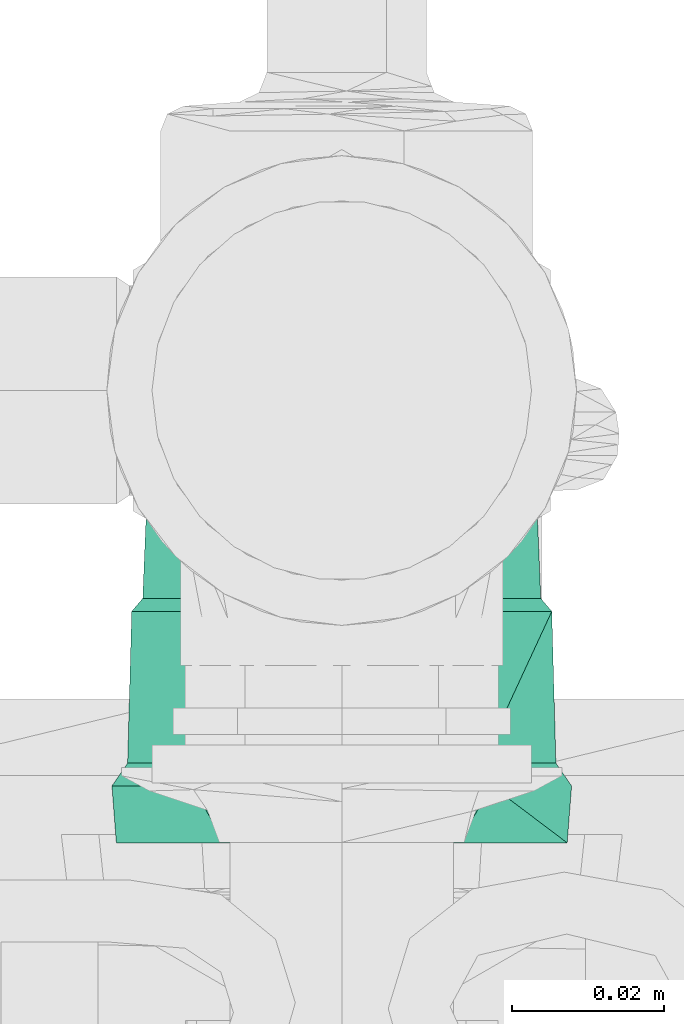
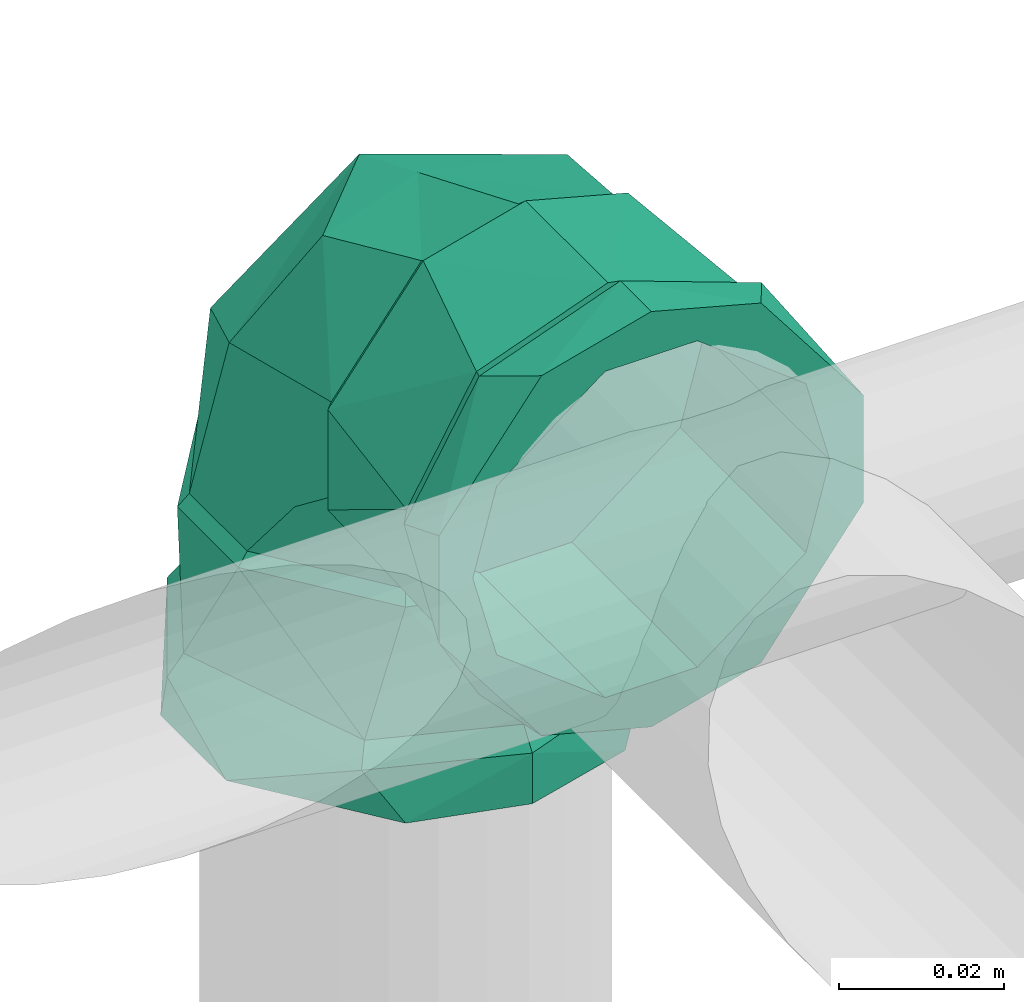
# One storey, part 59 of 589: 1 flow fitting.
"""IFC2X3 building model written with IfcOpenShell, lengths in millimetres."""

from ifc_helpers import new_model, entity, si_unit, converted_unit, derived_unit, direction, frame, origin, place, context, subcontext, project, spatial, faceted_brep, source, transform, mapped, material, type_object, type_shapes, element, save


model = new_model("IFC2X3")

# Units and contexts
model_context = context("Model", 3, precision=0.01, world=origin(), true_north=direction((6.123031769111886e-17, 1.0)))
body_context = subcontext(model_context, "Body", "Model", "MODEL_VIEW")
ifc_project = project(units=[si_unit("LENGTHUNIT", "METRE", prefix="MILLI"), si_unit("AREAUNIT", "SQUARE_METRE"), si_unit("VOLUMEUNIT", "CUBIC_METRE"), converted_unit("PLANEANGLEUNIT", "DEGREE", entity("IfcRatioMeasure", 0.017453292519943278), si_unit("PLANEANGLEUNIT", "RADIAN"), dimensions=[0, 0, 0, 0, 0, 0, 0]), si_unit("MASSUNIT", "GRAM", prefix="KILO"), derived_unit("MASSDENSITYUNIT", [(si_unit("MASSUNIT", "GRAM", prefix="KILO"), 1), (si_unit("LENGTHUNIT", "METRE"), -3)]), derived_unit("IONCONCENTRATIONUNIT", [(si_unit("MASSUNIT", "GRAM", prefix="KILO"), 1), (si_unit("LENGTHUNIT", "METRE"), -3)]), derived_unit("MOMENTOFINERTIAUNIT", [(si_unit("LENGTHUNIT", "METRE"), 4)]), si_unit("TIMEUNIT", "SECOND"), si_unit("FREQUENCYUNIT", "HERTZ"), si_unit("THERMODYNAMICTEMPERATUREUNIT", "DEGREE_CELSIUS"), derived_unit("THERMALTRANSMITTANCEUNIT", [(si_unit("MASSUNIT", "GRAM", prefix="KILO"), 1), (si_unit("THERMODYNAMICTEMPERATUREUNIT", "KELVIN"), -1), (si_unit("TIMEUNIT", "SECOND"), -3)]), derived_unit("THERMALCONDUCTANCEUNIT", [(si_unit("MASSUNIT", "GRAM", prefix="KILO"), 1), (si_unit("THERMODYNAMICTEMPERATUREUNIT", "KELVIN"), -1), (si_unit("TIMEUNIT", "SECOND"), -3), (si_unit("LENGTHUNIT", "METRE"), 1)]), derived_unit("VOLUMETRICFLOWRATEUNIT", [(si_unit("LENGTHUNIT", "METRE"), 3), (si_unit("TIMEUNIT", "SECOND"), -1)]), derived_unit("MASSFLOWRATEUNIT", [(si_unit("MASSUNIT", "GRAM", prefix="KILO"), 1), (si_unit("TIMEUNIT", "SECOND"), -1)]), derived_unit("ROTATIONALFREQUENCYUNIT", [(si_unit("TIMEUNIT", "SECOND"), -1)]), si_unit("ELECTRICCURRENTUNIT", "AMPERE"), si_unit("ELECTRICVOLTAGEUNIT", "VOLT"), si_unit("POWERUNIT", "WATT"), si_unit("FORCEUNIT", "NEWTON", prefix="KILO"), si_unit("ILLUMINANCEUNIT", "LUX"), si_unit("LUMINOUSFLUXUNIT", "LUMEN"), si_unit("LUMINOUSINTENSITYUNIT", "CANDELA"), derived_unit("USERDEFINED", [(si_unit("MASSUNIT", "GRAM", prefix="KILO"), -1), (si_unit("LENGTHUNIT", "METRE"), -2), (si_unit("TIMEUNIT", "SECOND"), 3), (si_unit("LUMINOUSFLUXUNIT", "LUMEN"), 1)]), derived_unit("USERDEFINED", [(si_unit("MASSUNIT", "GRAM", prefix="KILO"), 1), (si_unit("TIMEUNIT", "SECOND"), -3), (si_unit("LENGTHUNIT", "METRE"), 3), (si_unit("ELECTRICCURRENTUNIT", "AMPERE"), -2)]), derived_unit("SOUNDPOWERUNIT", [(si_unit("MASSUNIT", "GRAM", prefix="KILO"), 1), (si_unit("TIMEUNIT", "SECOND"), -3), (si_unit("LENGTHUNIT", "METRE"), 2)]), derived_unit("SOUNDPRESSUREUNIT", [(si_unit("MASSUNIT", "GRAM", prefix="KILO"), 1), (si_unit("LENGTHUNIT", "METRE"), -1), (si_unit("TIMEUNIT", "SECOND"), -2)]), derived_unit("LINEARVELOCITYUNIT", [(si_unit("LENGTHUNIT", "METRE"), 1), (si_unit("TIMEUNIT", "SECOND"), -1)]), si_unit("PRESSUREUNIT", "PASCAL"), derived_unit("USERDEFINED", [(si_unit("MASSUNIT", "GRAM", prefix="KILO"), 1), (si_unit("LENGTHUNIT", "METRE"), -2), (si_unit("TIMEUNIT", "SECOND"), -2)]), derived_unit("LINEARFORCEUNIT", [(si_unit("MASSUNIT", "GRAM", prefix="KILO"), 1), (si_unit("TIMEUNIT", "SECOND"), -2)]), derived_unit("PLANARFORCEUNIT", [(si_unit("MASSUNIT", "GRAM", prefix="KILO"), 1), (si_unit("LENGTHUNIT", "METRE"), -1), (si_unit("TIMEUNIT", "SECOND"), -2)]), derived_unit("SPECIFICHEATCAPACITYUNIT", [(si_unit("THERMODYNAMICTEMPERATUREUNIT", "KELVIN"), -1), (si_unit("LENGTHUNIT", "METRE"), 2), (si_unit("TIMEUNIT", "SECOND"), -2)]), derived_unit("HEATINGVALUEUNIT", [(si_unit("LENGTHUNIT", "METRE"), 2), (si_unit("TIMEUNIT", "SECOND"), -2)]), derived_unit("VAPORPERMEABILITYUNIT", [(si_unit("LENGTHUNIT", "METRE"), -1), (si_unit("TIMEUNIT", "SECOND"), 1)]), derived_unit("DYNAMICVISCOSITYUNIT", [(si_unit("MASSUNIT", "GRAM", prefix="KILO"), 1), (si_unit("TIMEUNIT", "SECOND"), -1), (si_unit("LENGTHUNIT", "METRE"), -1)]), derived_unit("THERMALEXPANSIONCOEFFICIENTUNIT", [(si_unit("THERMODYNAMICTEMPERATUREUNIT", "KELVIN"), -1)]), derived_unit("MODULUSOFELASTICITYUNIT", [(si_unit("MASSUNIT", "GRAM", prefix="KILO"), 1), (si_unit("LENGTHUNIT", "METRE"), -1), (si_unit("TIMEUNIT", "SECOND"), -2)]), derived_unit("ISOTHERMALMOISTURECAPACITYUNIT", [(si_unit("LENGTHUNIT", "METRE"), 3), (si_unit("MASSUNIT", "GRAM", prefix="KILO"), -1)]), derived_unit("MOISTUREDIFFUSIVITYUNIT", [(si_unit("TIMEUNIT", "SECOND"), -1), (si_unit("LENGTHUNIT", "METRE"), 2)])], contexts=[model_context])

# Site, building, storey
site_placement = place(None, origin())
site = spatial("IfcSite", under=ifc_project, at=site_placement, Name="Default", CompositionType="ELEMENT")
building_placement = place(site_placement, origin())
building = spatial("IfcBuilding", under=site, at=building_placement, CompositionType="ELEMENT")
storey_placement = place(building_placement, frame((0.0, 0.0, 100.0)))
storey = spatial("IfcBuildingStorey", under=building, at=storey_placement, Name="TÉRREO", CompositionType="ELEMENT", Elevation=100.0)

# Flow fitting
ifc_material = material(Name="PVC Marrom")
pipe_fitting_type = type_object("IfcPipeFittingType", Name="PVC Marrom Soldável_Joelho 45°_90°_Rodrigo MEP:Joelho", PredefinedType="NOTDEFINED", material=ifc_material)
shared_shape = source(origin(), body_context, "Body", "Brep", [
    faceted_brep([(-28.650000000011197, 29.100000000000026, 0.0), (-24.811627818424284, 29.100000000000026, 14.324999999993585), (-16.11339673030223, 29.100000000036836, 20.999387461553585), (-7.415165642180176, 29.10000000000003, 27.673774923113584), (7.415165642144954, 29.100000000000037, 27.67377492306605), (16.113396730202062, 29.100000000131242, 20.99938746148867), (24.811627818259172, 29.100000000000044, 14.324999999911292), (28.649999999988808, 29.100000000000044, 0.0), (24.811627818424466, 29.100000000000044, -14.32500000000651), (16.113396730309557, 29.09999999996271, -20.99938746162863), (7.41516564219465, 29.100000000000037, -27.673774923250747), (-7.4151656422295, 29.10000000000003, -27.673774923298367), (-16.11339673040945, 29.099999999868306, -20.999387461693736), (-24.811627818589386, 29.100000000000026, -14.325000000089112), (7.026937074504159, 27.400000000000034, 26.2248861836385), (-7.026937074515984, 27.400000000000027, 26.224886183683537), (-15.269763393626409, 27.400000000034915, 19.899943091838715), (-23.512589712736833, 27.400000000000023, 13.574999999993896), (-27.150000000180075, 27.400000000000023, 0.0), (-23.512589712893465, 27.400000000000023, -13.575000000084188), (-15.269763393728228, 27.39999999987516, -19.899943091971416), (-7.02693707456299, 27.400000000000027, -26.224886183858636), (7.026937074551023, 27.400000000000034, -26.224886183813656), (15.269763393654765, 27.399999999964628, -19.899943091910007), (23.51258971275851, 27.40000000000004, -13.575000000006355), (27.149999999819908, 27.40000000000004, 0.0), (23.512589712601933, 27.40000000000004, 13.574999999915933), (15.269763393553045, 27.400000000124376, 19.899943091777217)], [[[0, 1, 2, 3, 4, 5, 6, 7, 8, 9, 10, 11, 12, 13]], [[14, 15, 16, 17, 18, 19, 20, 21, 22, 23, 24, 25, 26, 27]], [[8, 7, 25, 24]], [[10, 9, 8, 24, 23, 22]], [[20, 19, 13, 12, 11, 21]], [[22, 21, 11, 10]], [[0, 13, 19, 18]], [[1, 0, 18, 17]], [[3, 2, 1, 17, 16, 15]], [[27, 26, 6, 5, 4, 14]], [[15, 14, 4, 3]], [[7, 6, 26, 25]]]),
    faceted_brep([(-29.09999999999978, -28.650000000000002, 0.0), (-29.09999999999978, -24.811627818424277, 14.32500000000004), (-29.09999999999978, -16.113396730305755, 20.99938746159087), (-29.09999999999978, -7.415165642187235, 27.673774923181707), (-29.09999999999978, 7.415165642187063, 27.6737749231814), (-29.10000000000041, 16.113396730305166, 20.999387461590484), (-29.09999999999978, 24.81162781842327, 14.324999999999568), (-29.09999999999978, 28.649999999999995, 0.0), (-29.09999999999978, 24.811627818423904, -14.324999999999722), (-29.10000000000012, 16.11339673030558, -20.999387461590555), (-29.09999999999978, 7.415165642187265, -27.67377492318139), (-29.09999999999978, -7.415165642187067, -27.67377492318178), (-29.099999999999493, -16.113396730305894, -20.99938746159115), (-29.09999999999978, -24.81162781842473, -14.325000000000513), (-27.39999999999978, 23.512589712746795, 13.574999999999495), (-27.40000000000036, 15.269763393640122, 19.89994309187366), (-27.39999999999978, 7.026937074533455, 26.22488618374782), (-27.39999999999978, -7.02693707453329, 26.224886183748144), (-27.399999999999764, -15.269763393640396, 19.89994309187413), (-27.39999999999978, -23.512589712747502, 13.575000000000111), (-27.39999999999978, -27.150000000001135, 0.0), (-27.39999999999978, -23.51258971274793, -13.575000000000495), (-27.399999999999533, -15.269763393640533, -19.899943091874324), (-27.39999999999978, -7.026937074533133, -26.224886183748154), (-27.39999999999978, 7.026937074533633, -26.22488618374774), (-27.400000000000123, 15.269763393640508, -19.899943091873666), (-27.39999999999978, 23.512589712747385, -13.574999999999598), (-27.39999999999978, 27.149999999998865, 0.0)], [[[0, 1, 2, 3, 4, 5, 6, 7, 8, 9, 10, 11, 12, 13]], [[14, 15, 16, 17, 18, 19, 20, 21, 22, 23, 24, 25, 26, 27]], [[8, 7, 27, 26]], [[10, 9, 8, 26, 25, 24]], [[22, 21, 13, 12, 11, 23]], [[24, 23, 11, 10]], [[0, 13, 21, 20]], [[1, 0, 20, 19]], [[3, 2, 1, 19, 18, 17]], [[15, 14, 6, 5, 4, 16]], [[17, 16, 4, 3]], [[7, 6, 14, 27]]]),
    faceted_brep([(-59.59999999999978, -7.958685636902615, -29.702219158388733), (-59.59999999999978, 0.0, -25.0), (-59.59999999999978, 7.958685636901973, -29.702219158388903), (-59.59999999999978, -12.500000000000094, -21.650635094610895), (-59.59999999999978, -26.630281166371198, -15.375000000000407), (-59.59999999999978, -24.148145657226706, -6.4704761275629), (-59.59999999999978, -30.749999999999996, 0.0), (-59.59999999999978, -24.148145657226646, 6.470476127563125), (-59.59999999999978, -26.630281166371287, 15.37499999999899), (-59.59999999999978, -12.499999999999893, 21.65063509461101), (-59.59999999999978, -7.958685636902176, 29.702219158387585), (-59.59999999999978, 0.0, 25.0), (-59.59999999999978, 7.958685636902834, 29.70221915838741), (-59.59999999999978, 12.499999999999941, 21.650635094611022), (-59.59999999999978, 26.630281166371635, 15.374999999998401), (-59.59999999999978, 24.14814565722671, 6.470476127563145), (-59.59999999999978, 30.750000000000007, 0.0), (-59.59999999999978, 24.14814565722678, -6.470476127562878), (-59.59999999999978, 26.63028116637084, -15.375000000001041), (-59.59999999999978, 12.500000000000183, -21.65063509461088), (-52.09999999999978, 30.750000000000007, 0.0), (-52.10000000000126, 23.555335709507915, 19.76635170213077), (-52.100000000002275, 5.338054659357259, 30.28312520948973), (-52.10000000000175, -23.557724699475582, 19.763504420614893), (-52.09999999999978, -30.749999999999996, 0.0), (-52.10000000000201, -9.109835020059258, 25.023314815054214), (-52.09999999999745, -23.557724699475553, -19.76350442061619), (-52.09999999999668, -5.34171494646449, -30.28247977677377), (-52.09999999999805, 23.5553357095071, -19.766351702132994), (-52.09999999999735, 9.106810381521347, -25.02441573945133), (-49.10000000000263, 4.971874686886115, 28.21529659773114), (-49.09999999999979, -28.650000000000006, 0.0), (-49.100000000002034, -21.95076584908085, 18.41158273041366), (-49.10000000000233, -8.489445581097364, 23.3134396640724), (-49.100000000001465, 21.94614669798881, 18.417088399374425), (-49.0999999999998, 28.649999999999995, 0.0), (-49.09999999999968, 21.946146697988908, -18.41708839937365), (-49.09999999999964, 8.483597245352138, -23.31556846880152), (-49.09999999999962, -21.95076584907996, -18.411582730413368), (-49.099999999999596, -4.978952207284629, -28.214048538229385), (-29.09999999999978, -12.500000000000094, -21.650635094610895), (-29.09999999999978, -7.415165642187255, -27.6737749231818), (-29.09999999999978, 0.0, -25.0), (-29.09999999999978, -24.811627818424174, -14.324999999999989), (-29.09999999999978, -24.148145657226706, -6.4704761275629), (-29.09999999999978, -28.650000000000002, 0.0), (-29.09999999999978, -24.148145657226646, 6.470476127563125), (-29.09999999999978, -24.811627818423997, 14.3250000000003), (-29.09999999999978, -12.499999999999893, 21.65063509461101), (-29.09999999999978, -7.41516564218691, 27.67377492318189), (-29.09999999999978, 0.0, 25.0), (-29.09999999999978, 7.415165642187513, 27.67377492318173), (-29.09999999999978, 12.499999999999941, 21.650635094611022), (-29.09999999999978, 24.811627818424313, 14.32499999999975), (-29.09999999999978, 24.14814565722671, 6.470476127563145), (-29.09999999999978, 28.650000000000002, 0.0), (-29.09999999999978, 24.14814565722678, -6.470476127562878), (-29.09999999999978, 24.81162781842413, -14.325000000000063), (-29.09999999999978, 12.500000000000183, -21.65063509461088), (-29.09999999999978, 7.415165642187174, -27.67377492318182)], [[[0, 1, 2]], [[1, 0, 3]], [[4, 3, 0]], [[3, 4, 5]], [[5, 4, 6]], [[7, 5, 6]], [[7, 6, 8]], [[8, 9, 7]], [[8, 10, 9]], [[9, 10, 11]], [[12, 11, 10]], [[13, 11, 12]], [[13, 12, 14]], [[14, 15, 13]], [[15, 14, 16]], [[15, 16, 17]], [[18, 17, 16]], [[2, 19, 18]], [[17, 18, 19]], [[19, 2, 1]], [[16, 14, 20]], [[14, 21, 20]], [[21, 14, 12]], [[21, 12, 22]], [[23, 10, 8]], [[24, 8, 6]], [[10, 23, 25, 22]], [[23, 8, 24]], [[10, 22, 12]], [[6, 4, 24]], [[4, 26, 24]], [[26, 4, 0]], [[26, 0, 27]], [[28, 2, 18]], [[20, 18, 16]], [[2, 28, 29, 27]], [[28, 18, 20]], [[2, 27, 0]], [[25, 30, 22]], [[31, 32, 24]], [[24, 32, 23]], [[23, 33, 25]], [[34, 35, 21]], [[23, 32, 33]], [[21, 22, 34]], [[20, 21, 35]], [[30, 25, 33]], [[34, 22, 30]], [[35, 36, 28]], [[28, 20, 35]], [[36, 29, 28]], [[36, 37, 29]], [[37, 27, 29]], [[38, 31, 24]], [[38, 26, 39]], [[26, 38, 24]], [[27, 37, 39]], [[39, 26, 27]], [[40, 41, 42]], [[43, 41, 40]], [[40, 44, 43]], [[44, 45, 43]], [[46, 45, 44]], [[45, 46, 47]], [[48, 47, 46]], [[47, 48, 49]], [[50, 49, 48]], [[51, 49, 50]], [[52, 51, 50]], [[51, 52, 53]], [[54, 53, 52]], [[53, 54, 55]], [[55, 54, 56]], [[55, 56, 57]], [[57, 56, 58]], [[58, 42, 59]], [[59, 57, 58]], [[41, 59, 42]], [[35, 34, 53]], [[35, 53, 55]], [[53, 34, 51]], [[34, 30, 51]], [[49, 30, 33, 32]], [[47, 32, 31]], [[32, 47, 49]], [[47, 31, 45]], [[30, 49, 51]], [[31, 38, 43]], [[31, 43, 45]], [[43, 38, 41]], [[38, 39, 41]], [[59, 39, 37, 36]], [[57, 36, 35]], [[36, 57, 59]], [[57, 35, 55]], [[39, 59, 41]], [[9, 11, 50, 48]], [[7, 9, 48, 46]], [[46, 44, 5, 7]], [[3, 5, 44, 40]], [[1, 3, 40, 42]], [[19, 1, 42, 58]], [[17, 19, 58, 56]], [[56, 54, 15, 17]], [[13, 15, 54, 52]], [[11, 13, 52, 50]]]),
    faceted_brep([(-27.39999999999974, 7.026937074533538, -26.224886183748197), (-27.399999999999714, -7.026937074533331, -26.224886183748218), (-27.399999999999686, -23.51258971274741, -13.575000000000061), (-27.399999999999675, -27.149999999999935, 0.0), (-27.399999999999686, -23.512589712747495, 13.574999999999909), (-27.399999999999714, -7.026937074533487, 26.224886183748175), (-27.39999999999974, 7.026937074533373, 26.22488618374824), (-27.399999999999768, 23.512589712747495, 13.57500000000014), (-27.39999999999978, 27.150000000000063, 0.0), (-27.399999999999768, 23.51258971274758, -13.574999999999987), (-7.026937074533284, 27.399999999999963, -26.224886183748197), (-23.512589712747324, 27.40000000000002, -13.574999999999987), (-27.14999999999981, 27.40000000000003, 0.0), (-23.51258971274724, 27.40000000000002, 13.57500000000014), (-7.026937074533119, 27.399999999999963, 26.22488618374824), (7.026937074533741, 27.39999999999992, 26.224886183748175), (23.512589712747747, 27.399999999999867, 13.574999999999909), (27.15000000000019, 27.399999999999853, 0.0), (23.512589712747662, 27.399999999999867, -13.575000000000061), (7.026937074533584, 27.39999999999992, -26.224886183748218), (-0.7421356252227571, 0.7421330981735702, 25.120395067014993), (-9.561084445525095, -17.668940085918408, 17.12121907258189), (-2.9564114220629, -17.02513409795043, 0.0), (11.17267491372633, -11.172674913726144, 0.0), (17.668938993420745, 9.561081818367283, 17.12121913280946), (-27.22322330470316, 27.223223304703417, 0.0), (-15.959081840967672, 15.95908155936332, 24.723104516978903), (17.025133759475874, 2.956410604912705, 0.0), (-9.561084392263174, -17.668940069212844, -17.12121906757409), (-15.959081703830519, 15.9590814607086, -24.723104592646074), (-0.7421353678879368, 0.7421331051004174, -25.120394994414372), (17.668938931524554, 9.561081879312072, -17.121219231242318)], [[[0, 1, 2, 3, 4, 5, 6, 7, 8, 9]], [[10, 11, 12, 13, 14, 15, 16, 17, 18, 19]], [[5, 20, 6]], [[21, 4, 22]], [[23, 21, 22]], [[15, 20, 24]], [[21, 5, 4]], [[25, 7, 13]], [[23, 24, 20]], [[25, 8, 7]], [[7, 6, 26]], [[4, 3, 22]], [[20, 21, 23]], [[27, 17, 16]], [[20, 26, 6]], [[20, 5, 21]], [[24, 27, 16]], [[7, 26, 13]], [[25, 13, 12]], [[24, 16, 15]], [[20, 14, 26]], [[14, 13, 26]], [[24, 23, 27]], [[14, 20, 15]], [[28, 23, 22]], [[28, 2, 1]], [[29, 9, 11]], [[29, 30, 0]], [[3, 2, 22]], [[30, 19, 31]], [[2, 28, 22]], [[30, 1, 0]], [[23, 28, 30]], [[30, 29, 10]], [[9, 8, 25]], [[25, 12, 11]], [[23, 31, 27]], [[1, 30, 28]], [[11, 10, 29]], [[30, 10, 19]], [[18, 17, 27]], [[23, 30, 31]], [[9, 29, 0]], [[31, 19, 18]], [[18, 27, 31]], [[11, 9, 25]]]),
    faceted_brep([(-12.499999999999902, 29.100000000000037, -21.650635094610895), (-7.415165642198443, 29.100000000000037, -27.6737749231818), (0.0, 29.100000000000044, -25.0), (-24.81162781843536, 29.100000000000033, -14.324999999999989), (-24.148145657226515, 29.100000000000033, -6.4704761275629), (-28.650000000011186, 29.100000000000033, 0.0), (-24.148145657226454, 29.100000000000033, 6.470476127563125), (-24.81162781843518, 29.100000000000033, 14.3250000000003), (-12.4999999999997, 29.100000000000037, 21.65063509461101), (-7.4151656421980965, 29.100000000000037, 27.67377492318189), (0.0, 29.100000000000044, 25.0), (7.415165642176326, 29.100000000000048, 27.67377492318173), (12.500000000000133, 29.100000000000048, 21.650635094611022), (24.811627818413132, 29.10000000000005, 14.32499999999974), (24.148145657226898, 29.10000000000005, 6.470476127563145), (28.649999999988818, 29.10000000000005, 0.0), (24.148145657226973, 29.10000000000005, -6.470476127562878), (24.811627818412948, 29.10000000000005, -14.325000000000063), (12.500000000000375, 29.100000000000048, -21.65063509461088), (7.415165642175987, 29.100000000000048, -27.67377492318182), (28.64999999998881, 49.100000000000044, 0.0), (21.94614669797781, 49.10000000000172, 18.417088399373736), (8.483597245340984, 49.100000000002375, 23.315568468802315), (-4.978952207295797, 49.100000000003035, 28.2140485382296), (-21.950765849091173, 49.10000000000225, 18.41158273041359), (-28.65000000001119, 49.10000000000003, 0.0), (-21.95076584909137, 49.09999999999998, -18.411582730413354), (-8.48944558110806, 49.09999999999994, -23.313439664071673), (4.971874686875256, 49.09999999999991, -28.215296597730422), (21.94614669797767, 49.099999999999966, -18.417088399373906), (-23.55533570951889, 52.10000000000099, 19.766351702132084), (-30.750000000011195, 52.10000000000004, 0.0), (-5.33805465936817, 52.10000000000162, 30.283125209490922), (23.557724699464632, 52.10000000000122, 19.763504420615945), (9.10983502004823, 52.10000000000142, 25.023314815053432), (30.749999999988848, 52.100000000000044, 0.0), (23.557724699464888, 52.10000000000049, -19.763504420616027), (5.3417149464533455, 52.10000000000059, -30.282479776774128), (-23.55533570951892, 52.100000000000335, -19.76635170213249), (-9.106810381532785, 52.10000000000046, -25.02441573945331), (-7.958685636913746, 59.60000000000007, -29.702219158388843), (-12.499999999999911, 59.600000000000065, -21.650635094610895), (0.0, 59.60000000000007, -25.0), (-26.63028116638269, 59.600000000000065, -15.374999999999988), (7.95868563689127, 59.60000000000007, -29.702219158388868), (-24.14814565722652, 59.600000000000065, -6.4704761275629), (-30.750000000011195, 59.60000000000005, 0.0), (-24.148145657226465, 59.600000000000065, 6.470476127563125), (-26.630281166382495, 59.600000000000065, 15.375000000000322), (-12.49999999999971, 59.600000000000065, 21.65063509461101), (-7.958685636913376, 59.60000000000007, 29.70221915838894), (0.0, 59.60000000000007, 25.0), (7.958685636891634, 59.60000000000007, 29.702219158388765), (12.500000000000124, 59.60000000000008, 21.650635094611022), (26.630281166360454, 59.60000000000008, 15.374999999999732), (24.14814565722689, 59.60000000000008, 6.470476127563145), (30.74999999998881, 59.60000000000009, 0.0), (24.148145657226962, 59.60000000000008, -6.470476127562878), (26.63028116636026, 59.60000000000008, -15.37500000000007), (12.500000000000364, 59.60000000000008, -21.65063509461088)], [[[0, 1, 2]], [[3, 1, 0]], [[0, 4, 3]], [[4, 5, 3]], [[6, 5, 4]], [[5, 6, 7]], [[8, 7, 6]], [[7, 8, 9]], [[10, 9, 8]], [[11, 9, 10]], [[12, 11, 10]], [[11, 12, 13]], [[14, 13, 12]], [[13, 14, 15]], [[15, 14, 16]], [[15, 16, 17]], [[17, 16, 18]], [[18, 2, 19]], [[19, 17, 18]], [[1, 19, 2]], [[20, 21, 13]], [[20, 13, 15]], [[13, 21, 11]], [[11, 21, 22, 23]], [[9, 23, 24]], [[7, 24, 25]], [[24, 7, 9]], [[7, 25, 5]], [[23, 9, 11]], [[25, 26, 3]], [[25, 3, 5]], [[3, 26, 1]], [[1, 26, 27, 28]], [[19, 28, 29]], [[17, 29, 20]], [[29, 17, 19]], [[17, 20, 15]], [[28, 19, 1]], [[24, 23, 30]], [[25, 24, 31]], [[31, 24, 30]], [[23, 32, 30]], [[21, 20, 33]], [[21, 33, 34]], [[22, 32, 23]], [[35, 33, 20]], [[32, 22, 34]], [[22, 21, 34]], [[20, 29, 36]], [[36, 35, 20]], [[37, 36, 29]], [[38, 39, 27]], [[29, 28, 37]], [[26, 25, 31]], [[38, 27, 26]], [[38, 26, 31]], [[28, 39, 37]], [[39, 28, 27]], [[40, 41, 42]], [[41, 40, 43]], [[42, 44, 40]], [[43, 45, 41]], [[43, 46, 45]], [[45, 46, 47]], [[48, 47, 46]], [[47, 48, 49]], [[50, 49, 48]], [[49, 50, 51]], [[51, 50, 52]], [[52, 53, 51]], [[54, 53, 52]], [[53, 54, 55]], [[56, 55, 54]], [[56, 57, 55]], [[58, 57, 56]], [[59, 57, 58]], [[59, 58, 44]], [[44, 42, 59]], [[56, 54, 35]], [[54, 33, 35]], [[33, 54, 52]], [[52, 32, 34, 33]], [[30, 50, 48]], [[31, 48, 46]], [[50, 30, 32]], [[30, 48, 31]], [[50, 32, 52]], [[46, 43, 31]], [[43, 38, 31]], [[38, 43, 40]], [[40, 37, 39, 38]], [[36, 44, 58]], [[35, 58, 56]], [[44, 36, 37]], [[36, 58, 35]], [[44, 37, 40]], [[49, 51, 10, 8]], [[47, 49, 8, 6]], [[6, 4, 45, 47]], [[41, 45, 4, 0]], [[42, 41, 0, 2]], [[59, 42, 2, 18]], [[57, 59, 18, 16]], [[16, 14, 55, 57]], [[53, 55, 14, 12]], [[51, 53, 12, 10]]]),
])
type_shapes(pipe_fitting_type, [shared_shape])
flow_fitting_placement = place(storey_placement, frame((2016.6423921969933, -7970.828664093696, 2970.0), z_axis=(1.0, 0.0, 0.0), x_axis=(0.0, 0.0, 1.0)))
element("IfcFlowFitting", 1, at=flow_fitting_placement, inside=storey, type_object=pipe_fitting_type, material=ifc_material, Name="PVC Marrom Soldável_Joelho 45°_90°_Rodrigo MEP:Joelho", ObjectType="PVC Marrom Soldável_Joelho 45°_90°_Rodrigo MEP:Joelho", context=body_context, shape_type="MappedRepresentation", body=[
    mapped(shared_shape, transform((0.0, 0.0, 0.0), scale=1.0)),
])

save(model, "model.ifc")
